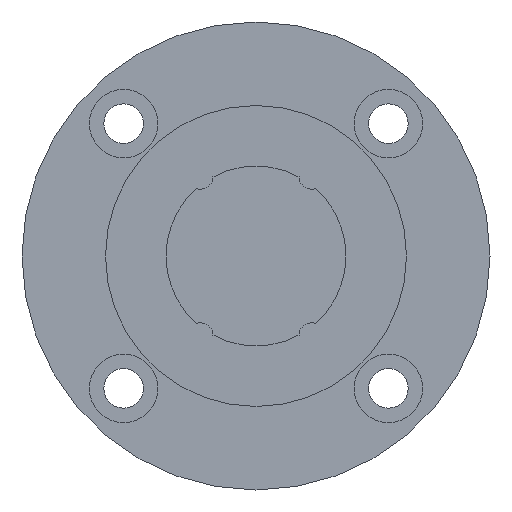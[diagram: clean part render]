
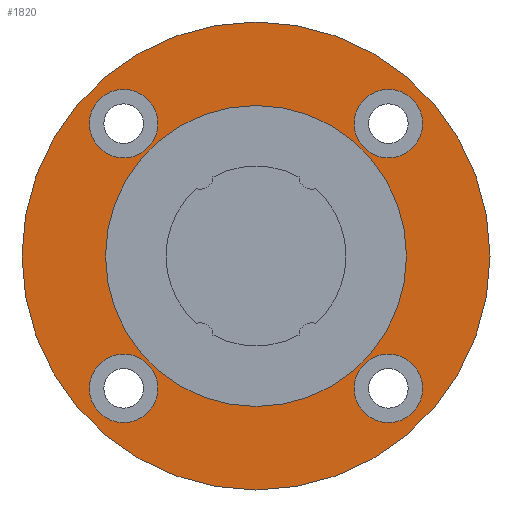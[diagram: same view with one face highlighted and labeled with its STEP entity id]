
A CAD part, left-side view. The second image highlights one B-rep face of the part: STEP entity #1820.
In plain terms, the highlighted planar face has unit normal (-1, 0, 0).
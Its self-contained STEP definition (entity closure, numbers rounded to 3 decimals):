
#497=CARTESIAN_POINT('',(11.85,-18.385,-13.635));
#498=VERTEX_POINT('',#497);
#499=CARTESIAN_POINT('',(11.85,-18.385,-18.385));
#500=DIRECTION('',(1.0,0.0,0.0));
#501=DIRECTION('',(0.0,0.0,1.0));
#502=AXIS2_PLACEMENT_3D('',#499,#500,#501);
#503=CIRCLE('',#502,4.75);
#504=EDGE_CURVE('',#498,#498,#503,.T.);
#607=CARTESIAN_POINT('',(11.85,18.385,-13.635));
#608=VERTEX_POINT('',#607);
#609=CARTESIAN_POINT('',(11.85,18.385,-18.385));
#610=DIRECTION('',(1.0,0.0,0.0));
#611=DIRECTION('',(0.0,0.0,1.0));
#612=AXIS2_PLACEMENT_3D('',#609,#610,#611);
#613=CIRCLE('',#612,4.75);
#614=EDGE_CURVE('',#608,#608,#613,.T.);
#717=CARTESIAN_POINT('',(11.85,18.385,23.135));
#718=VERTEX_POINT('',#717);
#719=CARTESIAN_POINT('',(11.85,18.385,18.385));
#720=DIRECTION('',(1.0,0.0,0.0));
#721=DIRECTION('',(0.0,0.0,1.0));
#722=AXIS2_PLACEMENT_3D('',#719,#720,#721);
#723=CIRCLE('',#722,4.75);
#724=EDGE_CURVE('',#718,#718,#723,.T.);
#827=CARTESIAN_POINT('',(11.85,-18.385,23.135));
#828=VERTEX_POINT('',#827);
#829=CARTESIAN_POINT('',(11.85,-18.385,18.385));
#830=DIRECTION('',(1.0,0.0,0.0));
#831=DIRECTION('',(0.0,0.0,1.0));
#832=AXIS2_PLACEMENT_3D('',#829,#830,#831);
#833=CIRCLE('',#832,4.75);
#834=EDGE_CURVE('',#828,#828,#833,.T.);
#1774=CARTESIAN_POINT('',(11.85,0.0,32.5));
#1775=VERTEX_POINT('',#1774);
#1776=CARTESIAN_POINT('',(11.85,0.0,0.));
#1777=DIRECTION('',(-1.0,0.0,0.0));
#1778=DIRECTION('',(0.0,0.0,1.0));
#1779=AXIS2_PLACEMENT_3D('',#1776,#1777,#1778);
#1780=CIRCLE('',#1779,32.5);
#1781=EDGE_CURVE('',#1775,#1775,#1780,.T.);
#1789=CARTESIAN_POINT('',(11.85,0.0,26.7));
#1790=DIRECTION('',(-1.0,0.0,0.0));
#1791=DIRECTION('',(0.0,0.0,1.0));
#1792=AXIS2_PLACEMENT_3D('',#1789,#1790,#1791);
#1793=PLANE('',#1792);
#1794=ORIENTED_EDGE('',*,*,#1781,.T.);
#1795=EDGE_LOOP('',(#1794));
#1796=FACE_OUTER_BOUND('',#1795,.T.);
#1797=ORIENTED_EDGE('',*,*,#504,.T.);
#1798=EDGE_LOOP('',(#1797));
#1799=FACE_BOUND('',#1798,.T.);
#1800=ORIENTED_EDGE('',*,*,#614,.T.);
#1801=EDGE_LOOP('',(#1800));
#1802=FACE_BOUND('',#1801,.T.);
#1803=ORIENTED_EDGE('',*,*,#724,.T.);
#1804=EDGE_LOOP('',(#1803));
#1805=FACE_BOUND('',#1804,.T.);
#1806=ORIENTED_EDGE('',*,*,#834,.T.);
#1807=EDGE_LOOP('',(#1806));
#1808=FACE_BOUND('',#1807,.T.);
#1809=CARTESIAN_POINT('',(11.85,0.0,20.9));
#1810=VERTEX_POINT('',#1809);
#1811=CARTESIAN_POINT('',(11.85,0.0,0.));
#1812=DIRECTION('',(-1.0,0.0,0.0));
#1813=DIRECTION('',(0.0,0.0,1.0));
#1814=AXIS2_PLACEMENT_3D('',#1811,#1812,#1813);
#1815=CIRCLE('',#1814,20.9);
#1816=EDGE_CURVE('',#1810,#1810,#1815,.T.);
#1817=ORIENTED_EDGE('',*,*,#1816,.F.);
#1818=EDGE_LOOP('',(#1817));
#1819=FACE_BOUND('',#1818,.T.);
#1820=ADVANCED_FACE('',(#1796,#1799,#1802,#1805,#1808,#1819),#1793,.T.);
